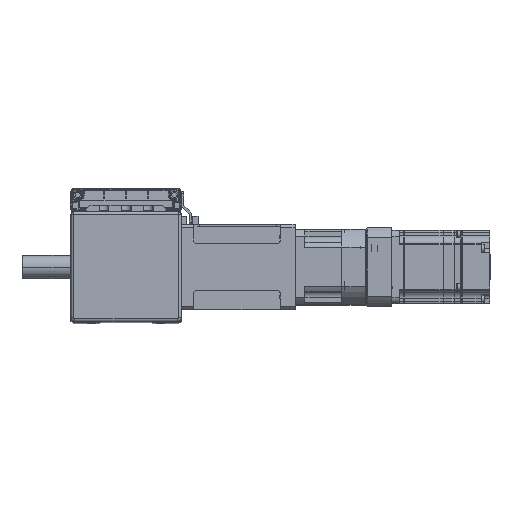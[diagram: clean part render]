
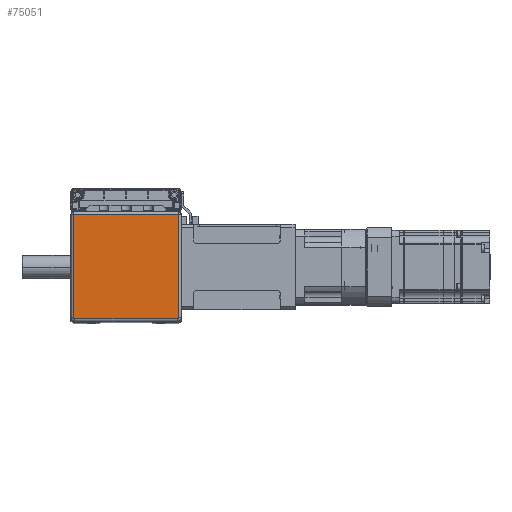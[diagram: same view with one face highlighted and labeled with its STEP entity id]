
A CAD part, top view. The second image highlights one B-rep face of the part: STEP entity #75051.
In plain terms, the highlighted planar face has unit normal (0, 0, 1).
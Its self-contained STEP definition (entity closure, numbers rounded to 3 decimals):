
#12437 = ORIENTED_EDGE ( 'NONE', *, *, #43270, .T. ) ;
#12457 = ORIENTED_EDGE ( 'NONE', *, *, #43248, .T. ) ;
#12563 = ORIENTED_EDGE ( 'NONE', *, *, #43280, .T. ) ;
#12594 = ORIENTED_EDGE ( 'NONE', *, *, #43272, .T. ) ;
#12665 = ORIENTED_EDGE ( 'NONE', *, *, #43264, .T. ) ;
#12753 = ORIENTED_EDGE ( 'NONE', *, *, #43223, .T. ) ;
#14090 = EDGE_LOOP ( 'NONE', ( #12753, #12457, #12665, #12594, #12563, #12437 ) ) ;
#20748 = CARTESIAN_POINT ( 'NONE',  ( -43., 26.901, 55. ) ) ;
#20753 = DIRECTION ( 'NONE',  ( 1., 0., 0. ) ) ;
#20764 = PLANE ( 'NONE',  #47636 ) ;
#20790 = DIRECTION ( 'NONE',  ( 0., 0., 1. ) ) ;
#29328 = LINE ( 'NONE', #56292, #29336 ) ;
#29331 = LINE ( 'NONE', #61810, #29342 ) ;
#29336 = VECTOR ( 'NONE', #56234, 1000. ) ;
#29342 = VECTOR ( 'NONE', #61813, 1000. ) ;
#29388 = CIRCLE ( 'NONE', #64476, 1. ) ;
#29421 = VECTOR ( 'NONE', #56364, 1000. ) ;
#29422 = LINE ( 'NONE', #56462, #29444 ) ;
#29430 = CIRCLE ( 'NONE', #64516, 1. ) ;
#29437 = LINE ( 'NONE', #56318, #29421 ) ;
#29444 = VECTOR ( 'NONE', #56542, 1000. ) ;
#41336 = CARTESIAN_POINT ( 'NONE',  ( 42., -58.599, 55. ) ) ;
#41347 = CARTESIAN_POINT ( 'NONE',  ( -43., 26.901, 55. ) ) ;
#41360 = CARTESIAN_POINT ( 'NONE',  ( -43., -57.599, 55. ) ) ;
#41367 = CARTESIAN_POINT ( 'NONE',  ( 43., -57.599, 55. ) ) ;
#41376 = CARTESIAN_POINT ( 'NONE',  ( 43., 26.901, 55. ) ) ;
#41448 = CARTESIAN_POINT ( 'NONE',  ( -42., -58.599, 55. ) ) ;
#43223 = EDGE_CURVE ( 'NONE', #68295, #68299, #29331, .T. ) ;
#43248 = EDGE_CURVE ( 'NONE', #68299, #68321, #29328, .T. ) ;
#43264 = EDGE_CURVE ( 'NONE', #68321, #68324, #29437, .T. ) ;
#43270 = EDGE_CURVE ( 'NONE', #68313, #68295, #29388, .T. ) ;
#43272 = EDGE_CURVE ( 'NONE', #68324, #68367, #29430, .T. ) ;
#43280 = EDGE_CURVE ( 'NONE', #68367, #68313, #29422, .T. ) ;
#47636 = AXIS2_PLACEMENT_3D ( 'NONE', #20748, #20790, #20753 ) ;
#56234 = DIRECTION ( 'NONE',  ( -1., 0., 0. ) ) ;
#56292 = CARTESIAN_POINT ( 'NONE',  ( -43., 26.901, 55. ) ) ;
#56318 = CARTESIAN_POINT ( 'NONE',  ( -43., -57.599, 55. ) ) ;
#56364 = DIRECTION ( 'NONE',  ( 0., -1., 0. ) ) ;
#56394 = DIRECTION ( 'NONE',  ( 0., 0., 1. ) ) ;
#56443 = CARTESIAN_POINT ( 'NONE',  ( 42., -57.599, 55. ) ) ;
#56445 = CARTESIAN_POINT ( 'NONE',  ( -42., -57.599, 55. ) ) ;
#56449 = DIRECTION ( 'NONE',  ( 0., 0., 1. ) ) ;
#56454 = DIRECTION ( 'NONE',  ( 1., 0., 0. ) ) ;
#56462 = CARTESIAN_POINT ( 'NONE',  ( 42., -58.599, 55. ) ) ;
#56468 = DIRECTION ( 'NONE',  ( 1., 0., 0. ) ) ;
#56542 = DIRECTION ( 'NONE',  ( 1., 0., 0. ) ) ;
#60402 = FACE_OUTER_BOUND ( 'NONE', #14090, .T. ) ;
#61810 = CARTESIAN_POINT ( 'NONE',  ( 43., 26.901, 55. ) ) ;
#61813 = DIRECTION ( 'NONE',  ( 0., 1., 0. ) ) ;
#64476 = AXIS2_PLACEMENT_3D ( 'NONE', #56443, #56394, #56468 ) ;
#64516 = AXIS2_PLACEMENT_3D ( 'NONE', #56445, #56449, #56454 ) ;
#68295 = VERTEX_POINT ( 'NONE', #41367 ) ;
#68299 = VERTEX_POINT ( 'NONE', #41376 ) ;
#68313 = VERTEX_POINT ( 'NONE', #41336 ) ;
#68321 = VERTEX_POINT ( 'NONE', #41347 ) ;
#68324 = VERTEX_POINT ( 'NONE', #41360 ) ;
#68367 = VERTEX_POINT ( 'NONE', #41448 ) ;
#75051 = ADVANCED_FACE ( 'NONE', ( #60402 ), #20764, .T. ) ;
